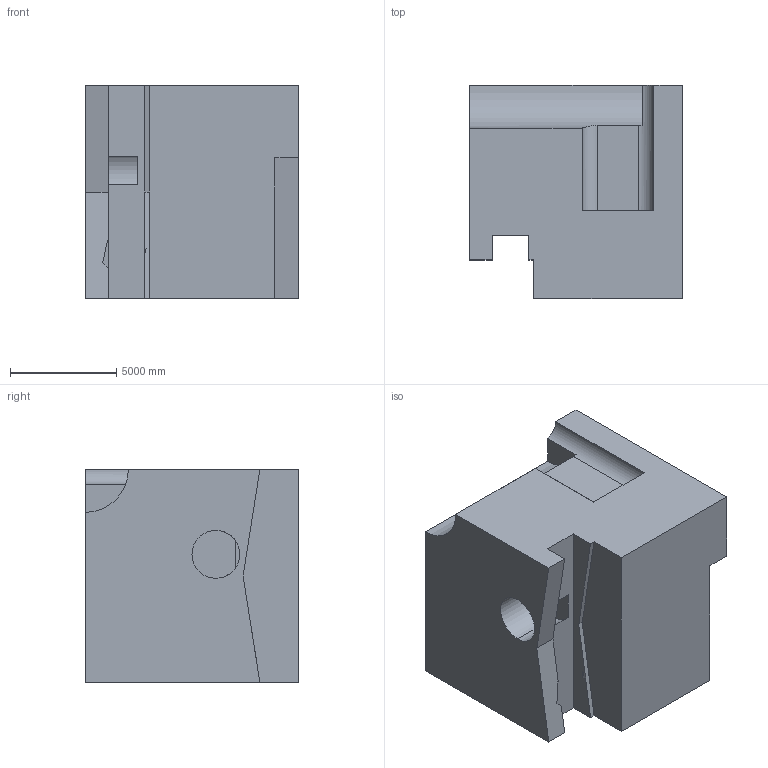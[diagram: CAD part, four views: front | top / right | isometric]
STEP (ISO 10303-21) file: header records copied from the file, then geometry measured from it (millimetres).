
FILE_DESCRIPTION (( 'STEP AP203' ), '1' );
FILE_NAME ('705.STEP', '2022-07-29T12:38:37', ( 'user' ), ( '' ), 'SwSTEP 2.0', 'SolidWorks 2021', '' );
FILE_SCHEMA (( 'CONFIG_CONTROL_DESIGN' ));
Length unit declared in the file: centimetre
Products named in the file (1): 705
Bounding box: 10000 x 10000 x 10000 mm (x, y, z)
Volume: 866121908902.1 mm3; surface area: 611939525.5 mm2
Topology: 1 solids, 1 shells, 39 faces, 111 edges, 74 vertices
Faces by surface type: plane 34, cylinder 5
Entity records: 1395 total; most frequent: CARTESIAN_POINT 287, ORIENTED_EDGE 222, DIRECTION 200, EDGE_CURVE 111, VECTOR 98, LINE 98, VERTEX_POINT 74, AXIS2_PLACEMENT_3D 51
